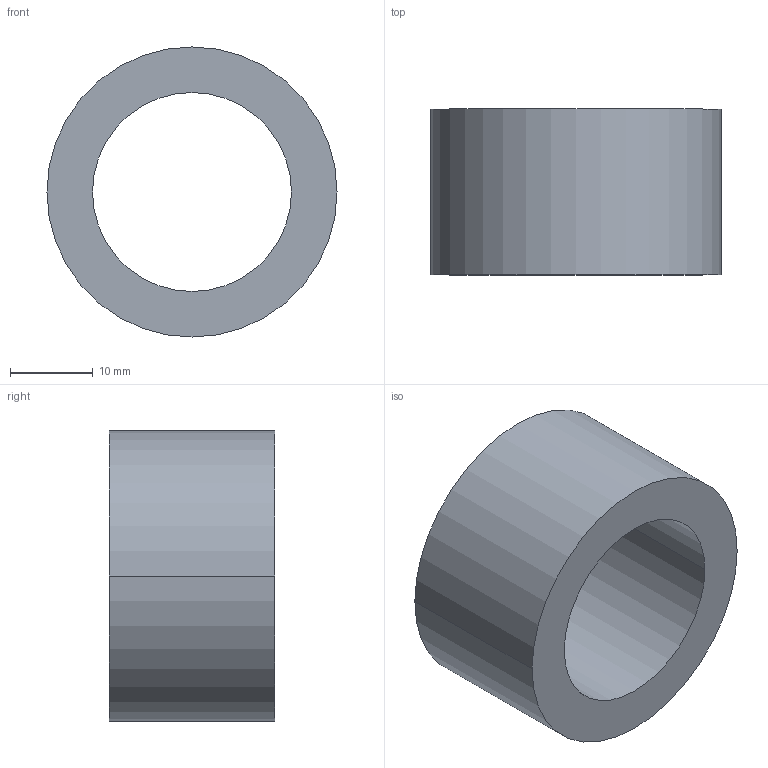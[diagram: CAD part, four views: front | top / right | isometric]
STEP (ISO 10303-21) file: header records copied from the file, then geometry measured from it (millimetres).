
FILE_DESCRIPTION (( 'STEP AP203' ), '1' );
FILE_NAME ('30800.WPP35H24.0.step', '2019-01-23T22:48:44', ( '' ), ( '' ), 'SwSTEP 2.0', 'SolidWorks 2017', '' );
FILE_SCHEMA (( 'CONFIG_CONTROL_DESIGN' ));
Length unit declared in the file: millimetre
Products named in the file (1): 30800.WPP35H24.0
Bounding box: 35 x 20 x 35 mm (x, y, z)
Volume: 10040.7 mm3; surface area: 4633.4 mm2
Topology: 1 solids, 1 shells, 8 faces, 16 edges, 10 vertices
Faces by surface type: cylinder 4, torus 2, plane 2
Entity records: 297 total; most frequent: DIRECTION 46, CARTESIAN_POINT 35, ORIENTED_EDGE 32, AXIS2_PLACEMENT_3D 21, EDGE_CURVE 16, CIRCLE 12, EDGE_LOOP 10, VERTEX_POINT 10
